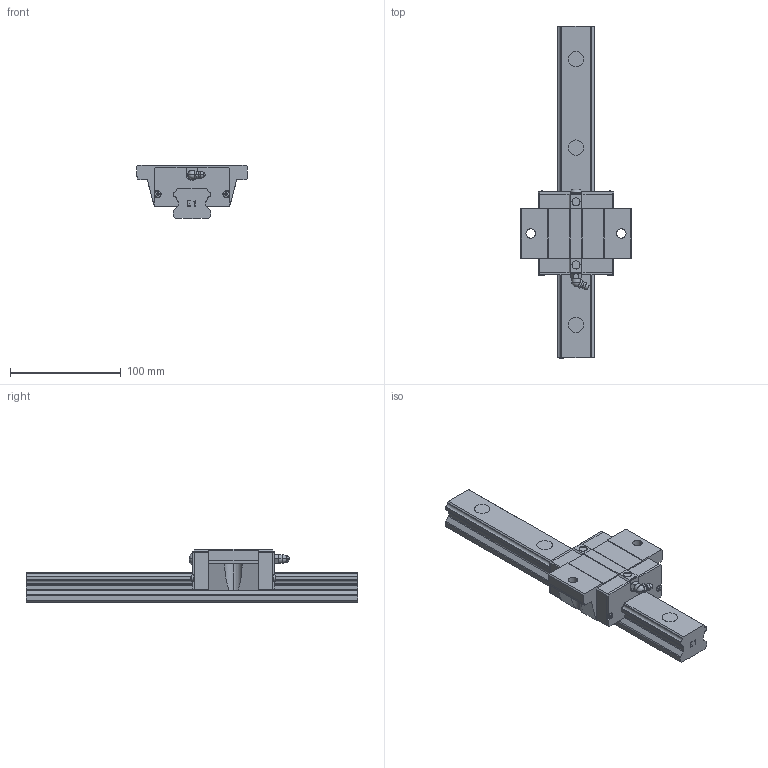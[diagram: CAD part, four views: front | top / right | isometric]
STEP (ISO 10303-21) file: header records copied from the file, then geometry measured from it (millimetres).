
FILE_DESCRIPTION(('no description'),'unknown implementation level');
FILE_NAME('EGW35SC_1_R_300_Z0_H_SS_9.stp',' ',('HIWIN GmbH'),('CADClick - KiM GmbH - www.kimweb.de'),'unknown preprocess','ACIS','unknown authorization');
FILE_SCHEMA(('CONFIG_CONTROL_DESIGN'));
Length unit declared in the file: millimetre
Products named in the file (2): 1; 2
Bounding box: 100 x 300 x 48 mm (x, y, z)
Volume: 406197.4 mm3; surface area: 71875.6 mm2
Topology: 2 solids, 4 shells, 633 faces, 1739 edges, 1138 vertices
Faces by surface type: plane 441, cylinder 138, cone 34, torus 18, sphere 2
Entity records: 20199 total; most frequent: CARTESIAN_POINT 4286, ORIENTED_EDGE 3474, DIRECTION 3167, EDGE_CURVE 1737, VERTEX_POINT 1138, LINE 1137, VECTOR 1137, AXIS2_PLACEMENT_3D 1015
